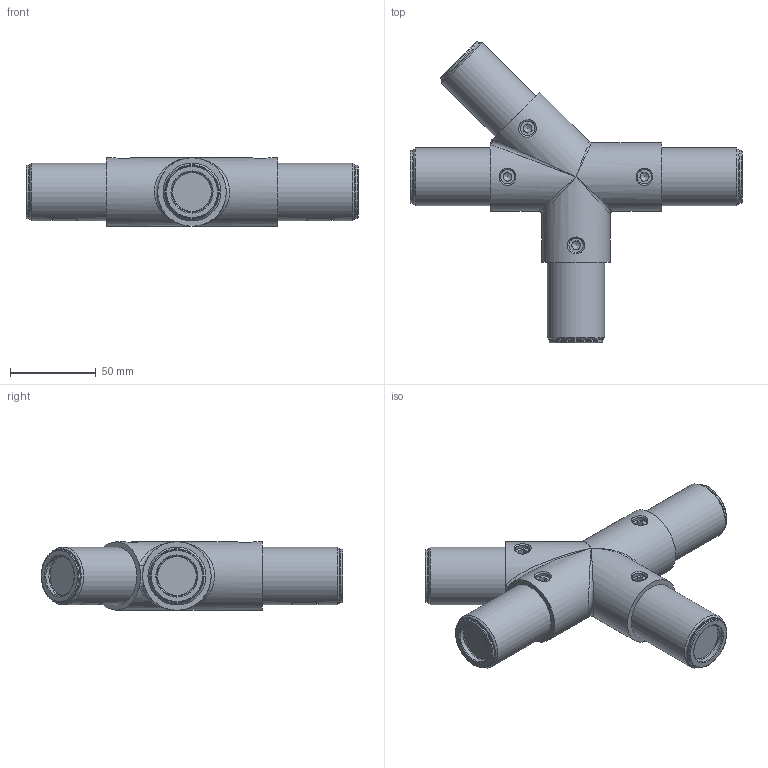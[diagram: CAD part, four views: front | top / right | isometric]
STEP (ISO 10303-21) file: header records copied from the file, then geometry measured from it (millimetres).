
FILE_DESCRIPTION(/* description */ ('STEP AP203'),/* implementation_level */ '2;1');
FILE_NAME(/* name */ 'C:\Users\Stefan.Nesic\Desktop\01010STEP\000Verifica\CORRETTI\CSP40-A45TL.stp',/* time_stamp */ '2022-07-11T14:54:26+02:00',/* author */ ('USER'),/* organization */ ('Microsoft'),/* preprocessor_version */ 'ST-DEVELOPER v18.1',/* originating_system */ 'Autodesk Inventor 2021',/* authorisation */ '');
FILE_SCHEMA (('AUTOMOTIVE_DESIGN { 1 0 10303 214 3 1 1 }'));
Length unit declared in the file: millimetre
Products named in the file (1): CSP40-A45TL
Bounding box: 194 x 176.34 x 40 mm (x, y, z)
Volume: 319990.6 mm3; surface area: 90651.8 mm2
Topology: 21 solids, 21 shells, 406 faces, 988 edges, 623 vertices
Faces by surface type: plane 232, cylinder 88, cone 44, bspline 22, torus 20
Full cylindrical faces by diameter (mm): 8.5 x4, 9.9 x8, 10 x8, 11.9 x4, 12.2 x4, 23.6 x4, 25.8 x4, 31 x4, 33.8 x4, 40 x2
Entity records: 23755 total; most frequent: CARTESIAN_POINT 14293, DIRECTION 1945, ORIENTED_EDGE 1944, EDGE_CURVE 972, AXIS2_PLACEMENT_3D 706, VERTEX_POINT 623, LINE 533, VECTOR 533
